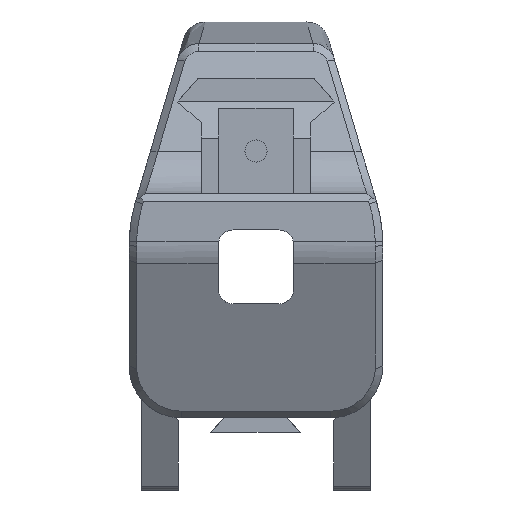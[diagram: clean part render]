
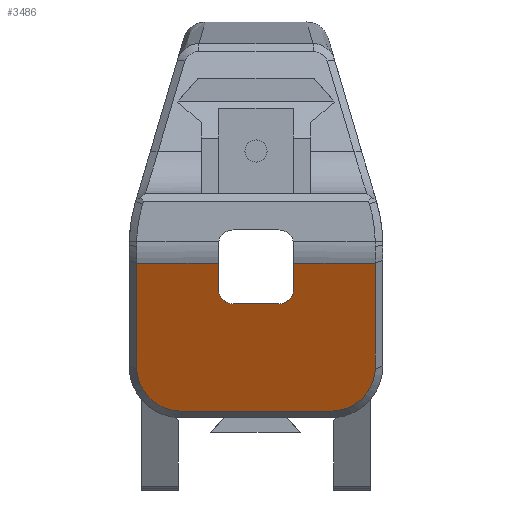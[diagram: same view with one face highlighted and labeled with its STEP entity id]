
A CAD part, front view. The second image highlights one B-rep face of the part: STEP entity #3486.
In plain terms, the highlighted planar face has unit normal (0, -0.906, -0.423).
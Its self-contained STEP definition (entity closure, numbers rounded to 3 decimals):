
#2916=CARTESIAN_POINT('',(16.128,263.656,71.502));
#2917=VERTEX_POINT('',#2916);
#2956=CARTESIAN_POINT('',(5.1,263.656,71.502));
#2957=VERTEX_POINT('',#2956);
#2965=CARTESIAN_POINT('',(16.128,263.656,71.502));
#2966=DIRECTION('',(-1.,0.,0.));
#2967=VECTOR('',#2966,11.028);
#2968=LINE('',#2965,#2967);
#2969=EDGE_CURVE('',#2917,#2957,#2968,.T.);
#3333=CARTESIAN_POINT('',(0.,226.268,151.681));
#3334=DIRECTION('',(0.,0.906,0.423));
#3335=DIRECTION('',(-1.,0.,0.));
#3336=AXIS2_PLACEMENT_3D('',#3333,#3334,#3335);
#3337=PLANE('',#3336);
#3338=CARTESIAN_POINT('',(5.1,265.289,68.));
#3339=VERTEX_POINT('',#3338);
#3340=CARTESIAN_POINT('',(3.1,266.221,66.));
#3341=VERTEX_POINT('',#3340);
#3342=CARTESIAN_POINT('',(5.1,265.289,68.));
#3343=CARTESIAN_POINT('',(5.1,266.221,66.));
#3344=CARTESIAN_POINT('',(3.1,266.221,66.));
#3345=(BOUNDED_CURVE()
B_SPLINE_CURVE(2,(#3342,#3343,#3344),.UNSPECIFIED.,.F.,.F.)
B_SPLINE_CURVE_WITH_KNOTS((3,3),(270.,360.),.UNSPECIFIED.)
CURVE()
GEOMETRIC_REPRESENTATION_ITEM()
RATIONAL_B_SPLINE_CURVE((1.,0.707,1.))
REPRESENTATION_ITEM(''));
#3346=EDGE_CURVE('',#3339,#3341,#3345,.T.);
#3347=ORIENTED_EDGE('',*,*,#3346,.T.);
#3348=CARTESIAN_POINT('',(-3.1,266.221,66.));
#3349=VERTEX_POINT('',#3348);
#3350=CARTESIAN_POINT('',(3.1,266.221,66.));
#3351=DIRECTION('',(-1.,0.,0.));
#3352=VECTOR('',#3351,6.2);
#3353=LINE('',#3350,#3352);
#3354=EDGE_CURVE('',#3341,#3349,#3353,.T.);
#3355=ORIENTED_EDGE('',*,*,#3354,.T.);
#3356=CARTESIAN_POINT('',(-5.1,265.289,68.));
#3357=VERTEX_POINT('',#3356);
#3358=CARTESIAN_POINT('',(-3.1,266.221,66.));
#3359=CARTESIAN_POINT('',(-5.1,266.221,66.));
#3360=CARTESIAN_POINT('',(-5.1,265.289,68.));
#3361=(BOUNDED_CURVE()
B_SPLINE_CURVE(2,(#3358,#3359,#3360),.UNSPECIFIED.,.F.,.F.)
B_SPLINE_CURVE_WITH_KNOTS((3,3),(0.,90.),.UNSPECIFIED.)
CURVE()
GEOMETRIC_REPRESENTATION_ITEM()
RATIONAL_B_SPLINE_CURVE((1.,0.707,1.))
REPRESENTATION_ITEM(''));
#3362=EDGE_CURVE('',#3349,#3357,#3361,.T.);
#3363=ORIENTED_EDGE('',*,*,#3362,.T.);
#3364=CARTESIAN_POINT('',(-5.1,263.656,71.502));
#3365=VERTEX_POINT('',#3364);
#3366=CARTESIAN_POINT('',(-5.1,265.289,68.));
#3367=DIRECTION('',(0.,-0.423,0.906));
#3368=VECTOR('',#3367,3.864);
#3369=LINE('',#3366,#3368);
#3370=EDGE_CURVE('',#3357,#3365,#3369,.T.);
#3371=ORIENTED_EDGE('',*,*,#3370,.T.);
#3372=CARTESIAN_POINT('',(-16.128,263.656,71.502));
#3373=VERTEX_POINT('',#3372);
#3374=CARTESIAN_POINT('',(-5.1,263.656,71.502));
#3375=DIRECTION('',(-1.,0.,0.));
#3376=VECTOR('',#3375,11.028);
#3377=LINE('',#3374,#3376);
#3378=EDGE_CURVE('',#3365,#3373,#3377,.T.);
#3379=ORIENTED_EDGE('',*,*,#3378,.T.);
#3380=CARTESIAN_POINT('',(-16.128,270.324,57.202));
#3381=VERTEX_POINT('',#3380);
#3382=CARTESIAN_POINT('',(-16.128,263.656,71.502));
#3383=DIRECTION('',(-0.,0.423,-0.906));
#3384=VECTOR('',#3383,15.779);
#3385=LINE('',#3382,#3384);
#3386=EDGE_CURVE('',#3373,#3381,#3385,.T.);
#3387=ORIENTED_EDGE('',*,*,#3386,.T.);
#3388=CARTESIAN_POINT('',(-10.128,272.967,51.534));
#3389=VERTEX_POINT('',#3388);
#3390=CARTESIAN_POINT('',(-16.128,270.324,57.202));
#3391=CARTESIAN_POINT('',(-16.103,270.493,56.839));
#3392=CARTESIAN_POINT('',(-16.046,270.659,56.483));
#3393=CARTESIAN_POINT('',(-15.958,270.822,56.133));
#3394=CARTESIAN_POINT('',(-15.87,270.985,55.784));
#3395=CARTESIAN_POINT('',(-15.751,271.145,55.441));
#3396=CARTESIAN_POINT('',(-15.601,271.302,55.105));
#3397=CARTESIAN_POINT('',(-15.525,271.38,54.937));
#3398=CARTESIAN_POINT('',(-15.442,271.457,54.771));
#3399=CARTESIAN_POINT('',(-15.352,271.532,54.611));
#3400=CARTESIAN_POINT('',(-15.262,271.607,54.451));
#3401=CARTESIAN_POINT('',(-15.165,271.68,54.294));
#3402=CARTESIAN_POINT('',(-15.061,271.751,54.142));
#3403=CARTESIAN_POINT('',(-14.853,271.893,53.838));
#3404=CARTESIAN_POINT('',(-14.616,272.027,53.551));
#3405=CARTESIAN_POINT('',(-14.347,272.152,53.283));
#3406=CARTESIAN_POINT('',(-14.213,272.214,53.149));
#3407=CARTESIAN_POINT('',(-14.07,272.274,53.02));
#3408=CARTESIAN_POINT('',(-13.923,272.331,52.899));
#3409=CARTESIAN_POINT('',(-13.775,272.387,52.777));
#3410=CARTESIAN_POINT('',(-13.622,272.44,52.663));
#3411=CARTESIAN_POINT('',(-13.464,272.49,52.556));
#3412=CARTESIAN_POINT('',(-13.147,272.59,52.342));
#3413=CARTESIAN_POINT('',(-12.808,272.677,52.157));
#3414=CARTESIAN_POINT('',(-12.444,272.748,52.003));
#3415=CARTESIAN_POINT('',(-12.262,272.784,51.927));
#3416=CARTESIAN_POINT('',(-12.076,272.816,51.859));
#3417=CARTESIAN_POINT('',(-11.888,272.843,51.801));
#3418=CARTESIAN_POINT('',(-11.7,272.87,51.743));
#3419=CARTESIAN_POINT('',(-11.509,272.893,51.694));
#3420=CARTESIAN_POINT('',(-11.316,272.911,51.655));
#3421=CARTESIAN_POINT('',(-11.123,272.929,51.615));
#3422=CARTESIAN_POINT('',(-10.927,272.943,51.585));
#3423=CARTESIAN_POINT('',(-10.729,272.953,51.565));
#3424=CARTESIAN_POINT('',(-10.531,272.962,51.544));
#3425=CARTESIAN_POINT('',(-10.329,272.967,51.534));
#3426=CARTESIAN_POINT('',(-10.128,272.967,51.534));
#3427=B_SPLINE_CURVE_WITH_KNOTS('',3,(#3390,#3391,#3392,#3393,#3394,#3395,#3396,#3397,#3398,#3399,#3400,#3401,#3402,#3403,#3404,#3405,#3406,#3407,#3408,#3409,#3410,#3411,#3412,#3413,#3414,#3415,
#3416,#3417,#3418,#3419,#3420,#3421,#3422,#3423,#3424,#3425,#3426),.UNSPECIFIED.,.F.,.F.,(4,3,3,3,3,3,3,3,3,3,3,3,4),(0.,0.001,0.002,0.003,0.004,0.005,0.005,0.006,0.007,0.008,0.008,0.009,0.009),.UNSPECIFIED.);
#3428=EDGE_CURVE('',#3381,#3389,#3427,.T.);
#3429=ORIENTED_EDGE('',*,*,#3428,.T.);
#3430=CARTESIAN_POINT('',(10.128,272.967,51.534));
#3431=VERTEX_POINT('',#3430);
#3432=CARTESIAN_POINT('',(-10.128,272.967,51.534));
#3433=DIRECTION('',(1.,-0.,-0.));
#3434=VECTOR('',#3433,20.256);
#3435=LINE('',#3432,#3434);
#3436=EDGE_CURVE('',#3389,#3431,#3435,.T.);
#3437=ORIENTED_EDGE('',*,*,#3436,.T.);
#3438=CARTESIAN_POINT('',(16.128,270.324,57.202));
#3439=VERTEX_POINT('',#3438);
#3440=CARTESIAN_POINT('',(10.128,272.967,51.534));
#3441=CARTESIAN_POINT('',(10.529,272.967,51.534));
#3442=CARTESIAN_POINT('',(10.923,272.948,51.575));
#3443=CARTESIAN_POINT('',(11.31,272.911,51.653));
#3444=CARTESIAN_POINT('',(11.697,272.875,51.732));
#3445=CARTESIAN_POINT('',(12.08,272.82,51.85));
#3446=CARTESIAN_POINT('',(12.439,272.749,52.001));
#3447=CARTESIAN_POINT('',(13.158,272.608,52.304));
#3448=CARTESIAN_POINT('',(13.808,272.401,52.747));
#3449=CARTESIAN_POINT('',(14.342,272.154,53.278));
#3450=CARTESIAN_POINT('',(14.475,272.092,53.411));
#3451=CARTESIAN_POINT('',(14.602,272.027,53.549));
#3452=CARTESIAN_POINT('',(14.722,271.96,53.694));
#3453=CARTESIAN_POINT('',(14.842,271.892,53.838));
#3454=CARTESIAN_POINT('',(14.955,271.823,53.989));
#3455=CARTESIAN_POINT('',(15.06,271.751,54.141));
#3456=CARTESIAN_POINT('',(15.269,271.609,54.447));
#3457=CARTESIAN_POINT('',(15.448,271.459,54.768));
#3458=CARTESIAN_POINT('',(15.598,271.304,55.101));
#3459=CARTESIAN_POINT('',(15.673,271.226,55.268));
#3460=CARTESIAN_POINT('',(15.741,271.147,55.438));
#3461=CARTESIAN_POINT('',(15.801,271.066,55.611));
#3462=CARTESIAN_POINT('',(15.861,270.986,55.783));
#3463=CARTESIAN_POINT('',(15.913,270.904,55.957));
#3464=CARTESIAN_POINT('',(15.957,270.823,56.133));
#3465=CARTESIAN_POINT('',(16.046,270.659,56.483));
#3466=CARTESIAN_POINT('',(16.103,270.493,56.84));
#3467=CARTESIAN_POINT('',(16.128,270.324,57.202));
#3468=B_SPLINE_CURVE_WITH_KNOTS('',3,(#3440,#3441,#3442,#3443,#3444,#3445,#3446,#3447,#3448,#3449,#3450,#3451,#3452,#3453,#3454,#3455,#3456,#3457,#3458,#3459,#3460,#3461,#3462,#3463,#3464,#3465,
#3466,#3467),.UNSPECIFIED.,.F.,.F.,(4,3,3,3,3,3,3,3,3,4),(0.,0.001,0.002,0.005,0.005,0.006,0.007,0.008,0.008,0.01),.UNSPECIFIED.);
#3469=EDGE_CURVE('',#3431,#3439,#3468,.T.);
#3470=ORIENTED_EDGE('',*,*,#3469,.T.);
#3471=CARTESIAN_POINT('',(16.128,270.324,57.202));
#3472=DIRECTION('',(0.,-0.423,0.906));
#3473=VECTOR('',#3472,15.779);
#3474=LINE('',#3471,#3473);
#3475=EDGE_CURVE('',#3439,#2917,#3474,.T.);
#3476=ORIENTED_EDGE('',*,*,#3475,.T.);
#3477=ORIENTED_EDGE('',*,*,#2969,.T.);
#3478=CARTESIAN_POINT('',(5.1,263.656,71.502));
#3479=DIRECTION('',(-0.,0.423,-0.906));
#3480=VECTOR('',#3479,3.864);
#3481=LINE('',#3478,#3480);
#3482=EDGE_CURVE('',#2957,#3339,#3481,.T.);
#3483=ORIENTED_EDGE('',*,*,#3482,.T.);
#3484=EDGE_LOOP('',(#3347,#3355,#3363,#3371,#3379,#3387,#3429,#3437,#3470,#3476,#3477,#3483));
#3485=FACE_BOUND('',#3484,.T.);
#3486=ADVANCED_FACE('',(#3485),#3337,.F.);
